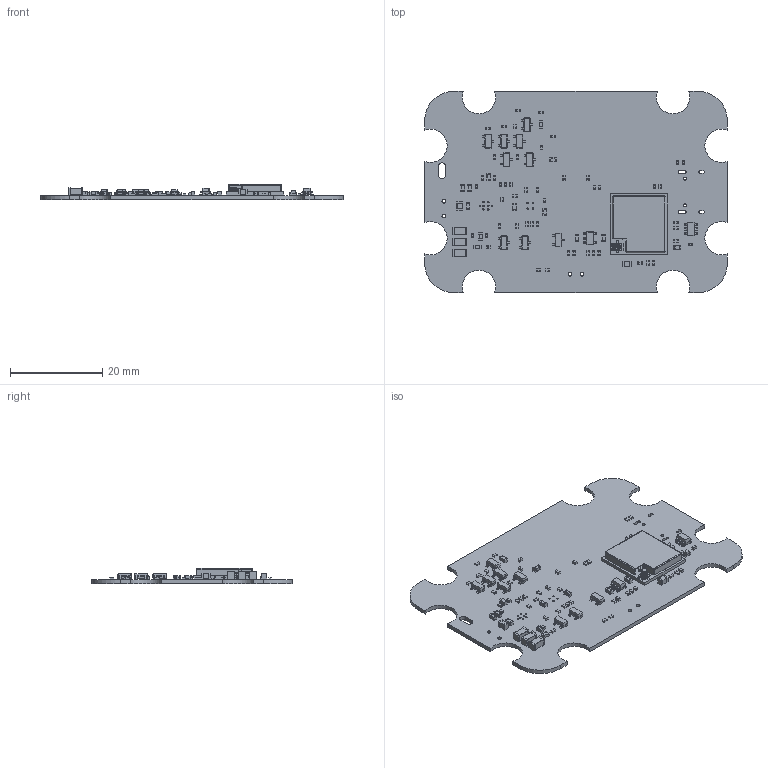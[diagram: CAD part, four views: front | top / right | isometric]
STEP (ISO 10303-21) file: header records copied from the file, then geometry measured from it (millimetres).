
FILE_DESCRIPTION(('KiCad electronic assembly'),'2;1');
FILE_NAME('AVO_GIRTH_PCB_C3_STEP.step','2026-10-29T16:13:31',('Pcbnew'), ('Kicad'),'Open CASCADE STEP processor 7.6','KiCad to STEP converter', 'Unknown');
FILE_SCHEMA(('AUTOMOTIVE_DESIGN { 1 0 10303 214 1 1 1 1 }'));
Length unit declared in the file: millimetre
Products named in the file (209): AVO_GIRTH_PCB_C3_STEP 1; LED_0603_1608Metric; SOT-23; C_0402_1005Metric; C_0603_1608Metric; R_0402_1005Metric; C_0805_2012Metric; C_1206_3216Metric; SOT-23-6; SOT-23-5; ESP32-C3-MINI-1U; PCB_ESP32-C3-MINI-1U_V2(2)^PCB_ESP32-C3-MINI-1U_V2; DesignRootModel^PCB_ESP32-C3-MINI-1U_V2(2)_PCB_ESP32-C3-MINI-1U_V2; Submodel-C0402_part^DesignRootModel_PCB_ESP32-C3-MINI-1U_V2(2)_PCB_
ESP32-C3-MINI-1U_V2; C0402_20210301.STEP^Submodel-C0402_part_DesignRootModel_PCB_
ESP32-C3-MINI-1U_V2(2)_PCB_ESP32-C3-MINI-1U_V2; C0402_20210301.STEP^C0402_20210301.STEP_Submodel-C0402_part_
DesignRootModel_PCB_ESP32-C3-MINI-1U_V2(2)_PCB_ESP32-C3-MINI-1U_V2; Submodel-R0201_part^DesignRootModel_PCB_ESP32-C3-MINI-1U_V2(2)_PCB_
ESP32-C3-MINI-1U_V2; R0201_20210301.STEP^Submodel-R0201_part_DesignRootModel_PCB_
ESP32-C3-MINI-1U_V2(2)_PCB_ESP32-C3-MINI-1U_V2; R0201_20210301.STEP^R0201_20210301.STEP_Submodel-R0201_part_
DesignRootModel_PCB_ESP32-C3-MINI-1U_V2(2)_PCB_ESP32-C3-MINI-1U_V2; Submodel-L0201_part^DesignRootModel_PCB_ESP32-C3-MINI-1U_V2(2)_PCB_
ESP32-C3-MINI-1U_V2; L0201_20210301.STEP^Submodel-L0201_part_DesignRootModel_PCB_
ESP32-C3-MINI-1U_V2(2)_PCB_ESP32-C3-MINI-1U_V2; L0201_20210301.STEP^L0201_20210301.STEP_Submodel-L0201_part_
DesignRootModel_PCB_ESP32-C3-MINI-1U_V2(2)_PCB_ESP32-C3-MINI-1U_V2; Submodel-C0201_part^DesignRootModel_PCB_ESP32-C3-MINI-1U_V2(2)_PCB_
ESP32-C3-MINI-1U_V2; C0201_20210301.STEP^Submodel-C0201_part_DesignRootModel_PCB_
ESP32-C3-MINI-1U_V2(2)_PCB_ESP32-C3-MINI-1U_V2; C0201_20210301.STEP^C0201_20210301.STEP_Submodel-C0201_part_
DesignRootModel_PCB_ESP32-C3-MINI-1U_V2(2)_PCB_ESP32-C3-MINI-1U_V2; Submodel-QFN32_0P5_5_part^DesignRootModel_PCB_ESP32-C3-MINI-1U_V2(2)_
PCB_ESP32-C3-MINI-1U_V2; ESP32-C3_20210301.STEP^Submodel-QFN32_0P5_5_part_DesignRootModel_PCB_
ESP32-C3-MINI-1U_V2(2)_PCB_ESP32-C3-MINI-1U_V2; ESP32-C3_20210301.STEP^ESP32-C3_20210301.STEP_Submodel-QFN32_0P5_5_
part_DesignRootModel_PCB_ESP32-C3-MINI-1U_V2(2)_PCB_ESP32-C3-MINI-1U_V2; Submodel-SOD882_part^DesignRootModel_PCB_ESP32-C3-MINI-1U_V2(2)_PCB_
ESP32-C3-MINI-1U_V2; DFN1006.STEP^Submodel-SOD882_part_DesignRootModel_PCB_ESP32-C3-MINI-1U_
V2(2)_PCB_ESP32-C3-MINI-1U_V2; DFN1006.STEP^DFN1006.STEP_Submodel-SOD882_part_DesignRootModel_PCB_
ESP32-C3-MINI-1U_V2(2)_PCB_ESP32-C3-MINI-1U_V2; Submodel-XTAL3225_part^DesignRootModel_PCB_ESP32-C3-MINI-1U_V2(2)_PCB_
ESP32-C3-MINI-1U_V2; XTAL3225_20210301.STEP^Submodel-XTAL3225_part_DesignRootModel_PCB_
ESP32-C3-MINI-1U_V2(2)_PCB_ESP32-C3-MINI-1U_V2; XTAL3225_20210301.STEP^XTAL3225_20210301.STEP_Submodel-XTAL3225_part_
DesignRootModel_PCB_ESP32-C3-MINI-1U_V2(2)_PCB_ESP32-C3-MINI-1U_V2; Submodel-IPEX_4P_part^DesignRootModel_PCB_ESP32-C3-MINI-1U_V2(2)_PCB_
ESP32-C3-MINI-1U_V2; ipx3.STEP^Submodel-IPEX_4P_part_DesignRootModel_PCB_ESP32-C3-MINI-1U_
V2(2)_PCB_ESP32-C3-MINI-1U_V2; ipx3.STEP^ipx3.STEP_Submodel-IPEX_4P_part_DesignRootModel_PCB_
ESP32-C3-MINI-1U_V2(2)_PCB_ESP32-C3-MINI-1U_V2; uid__4^DesignRootModel_PCB_ESP32-C3-MINI-1U_V2(2)_PCB_ESP32-C3-MINI-1U_
V2; uid__4-15^DesignRootModel_PCB_ESP32-C3-MINI-1U_V2(2)_PCB_
ESP32-C3-MINI-1U_V2; uid__4-16^DesignRootModel_PCB_ESP32-C3-MINI-1U_V2(2)_PCB_
ESP32-C3-MINI-1U_V2 ...
Assembly tree (291 placements, depth 7):
  AVO_GIRTH_PCB_C3_STEP 1
    LED_0603_1608Metric
    SOT-23  x9
    C_0402_1005Metric  x18
    C_0603_1608Metric  x12
    R_0402_1005Metric  x32
    C_0805_2012Metric  x2
    C_1206_3216Metric  x3
    SOT-23-6
    SOT-23-5
    ESP32-C3-MINI-1U
      PCB_ESP32-C3-MINI-1U_V2(2)^PCB_ESP32-C3-MINI-1U_V2
        DesignRootModel^PCB_ESP32-C3-MINI-1U_V2(2)_PCB_ESP32-C3-MINI-1U_V2
          Submodel-C0402_part^DesignRootModel_PCB_ESP32-C3-MINI-1U_V2(2)_PCB_
ESP32-C3-MINI-1U_V2
            C0402_20210301.STEP^Submodel-C0402_part_DesignRootModel_PCB_
ESP32-C3-MINI-1U_V2(2)_PCB_ESP32-C3-MINI-1U_V2
              C0402_20210301.STEP^C0402_20210301.STEP_Submodel-C0402_part_
DesignRootModel_PCB_ESP32-C3-MINI-1U_V2(2)_PCB_ESP32-C3-MINI-1U_V2
          Submodel-R0201_part^DesignRootModel_PCB_ESP32-C3-MINI-1U_V2(2)_PCB_
ESP32-C3-MINI-1U_V2
            R0201_20210301.STEP^Submodel-R0201_part_DesignRootModel_PCB_
ESP32-C3-MINI-1U_V2(2)_PCB_ESP32-C3-MINI-1U_V2
              R0201_20210301.STEP^R0201_20210301.STEP_Submodel-R0201_part_
DesignRootModel_PCB_ESP32-C3-MINI-1U_V2(2)_PCB_ESP32-C3-MINI-1U_V2
          Submodel-R0201_part^DesignRootModel_PCB_ESP32-C3-MINI-1U_V2(2)_PCB_
ESP32-C3-MINI-1U_V2
            R0201_20210301.STEP^Submodel-R0201_part_DesignRootModel_PCB_
ESP32-C3-MINI-1U_V2(2)_PCB_ESP32-C3-MINI-1U_V2
              R0201_20210301.STEP^R0201_20210301.STEP_Submodel-R0201_part_
DesignRootModel_PCB_ESP32-C3-MINI-1U_V2(2)_PCB_ESP32-C3-MINI-1U_V2
          Submodel-R0201_part^DesignRootModel_PCB_ESP32-C3-MINI-1U_V2(2)_PCB_
ESP32-C3-MINI-1U_V2
            R0201_20210301.STEP^Submodel-R0201_part_DesignRootModel_PCB_
ESP32-C3-MINI-1U_V2(2)_PCB_ESP32-C3-MINI-1U_V2
              R0201_20210301.STEP^R0201_20210301.STEP_Submodel-R0201_part_
DesignRootModel_PCB_ESP32-C3-MINI-1U_V2(2)_PCB_ESP32-C3-MINI-1U_V2
          Submodel-L0201_part^DesignRootModel_PCB_ESP32-C3-MINI-1U_V2(2)_PCB_
ESP32-C3-MINI-1U_V2
            L0201_20210301.STEP^Submodel-L0201_part_DesignRootModel_PCB_
ESP32-C3-MINI-1U_V2(2)_PCB_ESP32-C3-MINI-1U_V2
              L0201_20210301.STEP^L0201_20210301.STEP_Submodel-L0201_part_
DesignRootModel_PCB_ESP32-C3-MINI-1U_V2(2)_PCB_ESP32-C3-MINI-1U_V2
          Submodel-L0201_part^DesignRootModel_PCB_ESP32-C3-MINI-1U_V2(2)_PCB_
ESP32-C3-MINI-1U_V2
            L0201_20210301.STEP^Submodel-L0201_part_DesignRootModel_PCB_
ESP32-C3-MINI-1U_V2(2)_PCB_ESP32-C3-MINI-1U_V2
              L0201_20210301.STEP^L0201_20210301.STEP_Submodel-L0201_part_
DesignRootModel_PCB_ESP32-C3-MINI-1U_V2(2)_PCB_ESP32-C3-MINI-1U_V2
          Submodel-C0201_part^DesignRootModel_PCB_ESP32-C3-MINI-1U_V2(2)_PCB_
ESP32-C3-MINI-1U_V2
            C0201_20210301.STEP^Submodel-C0201_part_DesignRootModel_PCB_
ESP32-C3-MINI-1U_V2(2)_PCB_ESP32-C3-MINI-1U_V2
              C0201_20210301.STEP^C0201_20210301.STEP_Submodel-C0201_part_
DesignRootModel_PCB_ESP32-C3-MINI-1U_V2(2)_PCB_ESP32-C3-MINI-1U_V2
          Submodel-C0201_part^DesignRootModel_PCB_ESP32-C3-MINI-1U_V2(2)_PCB_
ESP32-C3-MINI-1U_V2
            C0201_20210301.STEP^Submodel-C0201_part_DesignRootModel_PCB_
ESP32-C3-MINI-1U_V2(2)_PCB_ESP32-C3-MINI-1U_V2
              C0201_20210301.STEP^C0201_20210301.STEP_Submodel-C0201_part_
DesignRootModel_PCB_ESP32-C3-MINI-1U_V2(2)_PCB_ESP32-C3-MINI-1U_V2
          Submodel-C0201_part^DesignRootModel_PCB_ESP32-C3-MINI-1U_V2(2)_PCB_
ESP32-C3-MINI-1U_V2
            C0201_20210301.STEP^Submodel-C0201_part_DesignRootModel_PCB_
ESP32-C3-MINI-1U_V2(2)_PCB_ESP32-C3-MINI-1U_V2
              C0201_20210301.STEP^C0201_20210301.STEP_Submodel-C0201_part_
DesignRootModel_PCB_ESP32-C3-MINI-1U_V2(2)_PCB_ESP32-C3-MINI-1U_V2
          Submodel-C0201_part^DesignRootModel_PCB_ESP32-C3-MINI-1U_V2(2)_PCB_
ESP32-C3-MINI-1U_V2
            C0201_20210301.STEP^Submodel-C0201_part_DesignRootModel_PCB_
ESP32-C3-MINI-1U_V2(2)_PCB_ESP32-C3-MINI-1U_V2
              C0201_20210301.STEP^C0201_20210301.STEP_Submodel-C0201_part_
DesignRootModel_PCB_ESP32-C3-MINI-1U_V2(2)_PCB_ESP32-C3-MINI-1U_V2
          Submodel-C0201_part^DesignRootModel_PCB_ESP32-C3-MINI-1U_V2(2)_PCB_
ESP32-C3-MINI-1U_V2
            C0201_20210301.STEP^Submodel-C0201_part_DesignRootModel_PCB_
ESP32-C3-MINI-1U_V2(2)_PCB_ESP32-C3-MINI-1U_V2
              C0201_20210301.STEP^C0201_20210301.STEP_Submodel-C0201_part_
DesignRootModel_PCB_ESP32-C3-MINI-1U_V2(2)_PCB_ESP32-C3-MINI-1U_V2
          Submodel-C0201_part^DesignRootModel_PCB_ESP32-C3-MINI-1U_V2(2)_PCB_
ESP32-C3-MINI-1U_V2
            C0201_20210301.STEP^Submodel-C0201_part_DesignRootModel_PCB_
ESP32-C3-MINI-1U_V2(2)_PCB_ESP32-C3-MINI-1U_V2
              C0201_20210301.STEP^C0201_20210301.STEP_Submodel-C0201_part_
DesignRootModel_PCB_ESP32-C3-MINI-1U_V2(2)_PCB_ESP32-C3-MINI-1U_V2
          Submodel-C0201_part^DesignRootModel_PCB_ESP32-C3-MINI-1U_V2(2)_PCB_
ESP32-C3-MINI-1U_V2
            C0201_20210301.STEP^Submodel-C0201_part_DesignRootModel_PCB_
ESP32-C3-MINI-1U_V2(2)_PCB_ESP32-C3-MINI-1U_V2
              C0201_20210301.STEP^C0201_20210301.STEP_Submodel-C0201_part_
DesignRootModel_PCB_ESP32-C3-MINI-1U_V2(2)_PCB_ESP32-C3-MINI-1U_V2
          Submodel-C0201_part^DesignRootModel_PCB_ESP32-C3-MINI-1U_V2(2)_PCB_
ESP32-C3-MINI-1U_V2
            C0201_20210301.STEP^Submodel-C0201_part_DesignRootModel_PCB_
ESP32-C3-MINI-1U_V2(2)_PCB_ESP32-C3-MINI-1U_V2
              C0201_20210301.STEP^C0201_20210301.STEP_Submodel-C0201_part_
DesignRootModel_PCB_ESP32-C3-MINI-1U_V2(2)_PCB_ESP32-C3-MINI-1U_V2
          Submodel-C0201_part^DesignRootModel_PCB_ESP32-C3-MINI-1U_V2(2)_PCB_
ESP32-C3-MINI-1U_V2
            C0201_20210301.STEP^Submodel-C0201_part_DesignRootModel_PCB_
ESP32-C3-MINI-1U_V2(2)_PCB_ESP32-C3-MINI-1U_V2
              C0201_20210301.STEP^C0201_20210301.STEP_Submodel-C0201_part_
DesignRootModel_PCB_ESP32-C3-MINI-1U_V2(2)_PCB_ESP32-C3-MINI-1U_V2
          Submodel-C0201_part^DesignRootModel_PCB_ESP32-C3-MINI-1U_V2(2)_PCB_
ESP32-C3-MINI-1U_V2
            C0201_20210301.STEP^Submodel-C0201_part_DesignRootModel_PCB_
ESP32-C3-MINI-1U_V2(2)_PCB_ESP32-C3-MINI-1U_V2
Bounding box: 65.5 x 43.5 x 3.4 mm (x, y, z)
Volume: 2621.2 mm3; surface area: 7030 mm2
Topology: 260 solids, 261 shells, 5170 faces, 12703 edges, 8068 vertices
Faces by surface type: plane 3266, cylinder 1421, bspline 356, sphere 112, cone 9, torus 4, revolution 2
Full cylindrical faces by diameter (mm): 0.3 x12, 0.65 x2, 0.8 x4
Entity records: 74537 total; most frequent: CARTESIAN_POINT 16243, DIRECTION 11316, ORIENTED_EDGE 11174, EDGE_CURVE 5587, LINE 4388, VECTOR 4388, VERTEX_POINT 3640, AXIS2_PLACEMENT_3D 3463
